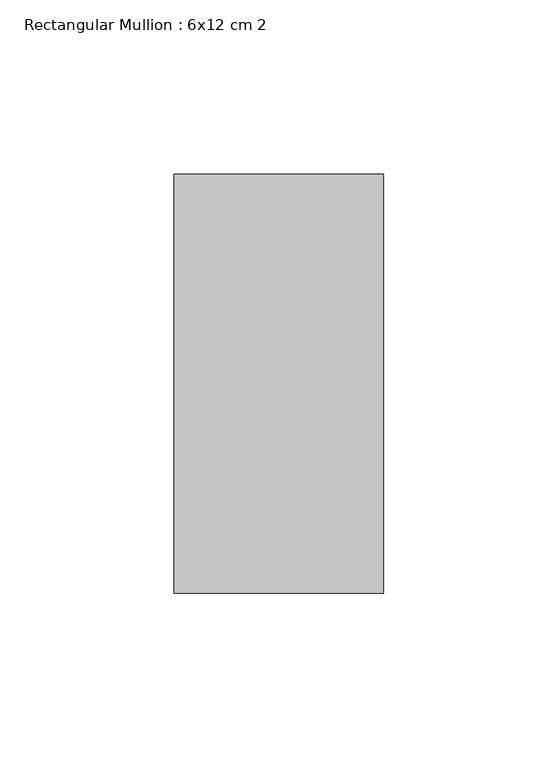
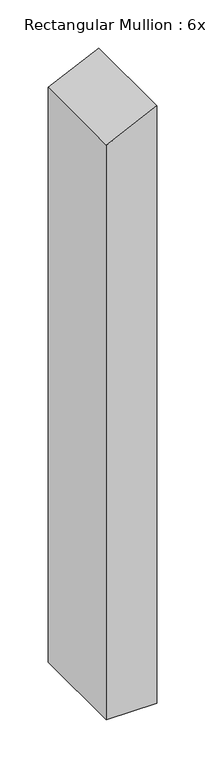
"""IFC4 building model written with IfcOpenShell, lengths in millimetres: member geometry, Rectangular Mullion : 6x12 cm 2."""

from ifc_helpers import new_model, si_unit, frame, origin, place, context, project, spatial, polyline, outline, extrude, source, transform, mapped, element, save


def rectangular_mullion_6x12_cm_2_34bf3a15(model_context):
    return source(origin(), model_context, "Body", "SweptSolid", [
        extrude(outline(polyline([(38.9031731, 0.0), (10.6329502, -60.0), (-714.9138022, -60.0), (-714.9138022, 0.0), (38.9031731, 0.0)])), frame((0.0, 85.0, 0.0), z_axis=(0.0, 1.0, 0.0), x_axis=(0.0, 0.0, 1.0)), (0.0, 0.0, 1.0), 120.0),
    ])


if __name__ == "__main__":
    model = new_model("IFC4")
    model_context = context("Model", 3, world=origin())
    ifc_project = project(units=[si_unit("LENGTHUNIT", "METRE", prefix="MILLI")], contexts=[model_context])
    site = spatial("IfcSite", under=ifc_project)
    building = spatial("IfcBuilding", under=site)
    placement = place(None, origin())
    rectangular_mullion_6x12_cm_2_shape = rectangular_mullion_6x12_cm_2_34bf3a15(model_context)
    element("IfcMember", 1, ObjectType="Rectangular Mullion : 6x12 cm 2", at=placement, inside=building, context=model_context, shape_type="MappedRepresentation", body=[
        mapped(rectangular_mullion_6x12_cm_2_shape, transform((0.0, 0.0, 0.0), x_axis=(1.0, 0.0, 0.0), y_axis=(0.0, 1.0, 0.0), z_axis=(0.0, 0.0, 1.0))),
    ])
    save(model, "model.ifc")
